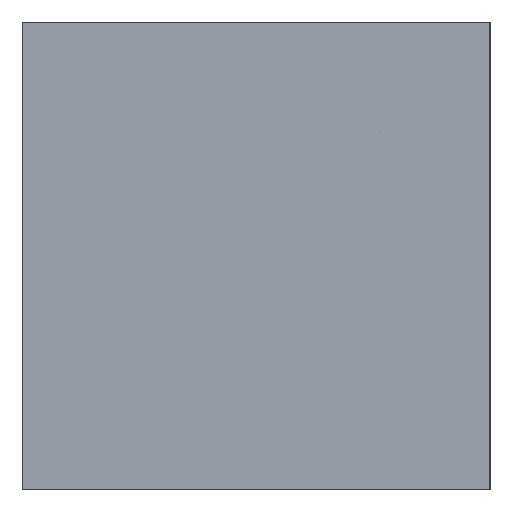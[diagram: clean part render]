
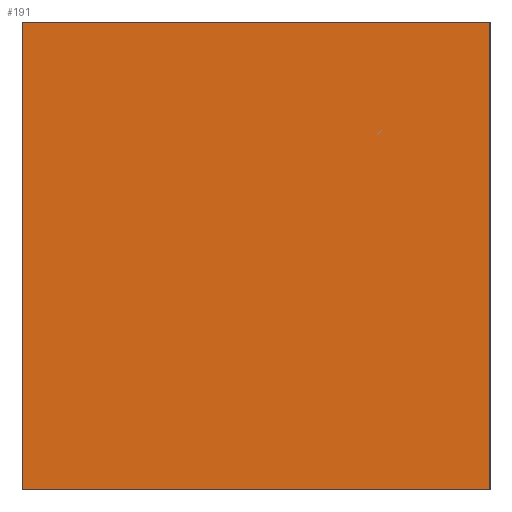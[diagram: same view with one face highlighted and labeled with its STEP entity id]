
A CAD part, left-side view. The second image highlights one B-rep face of the part: STEP entity #191.
In plain terms, the highlighted planar face has unit normal (-1, 0, 0).
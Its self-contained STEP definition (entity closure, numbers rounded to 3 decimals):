
#25=LINE('',#334,#37);
#26=LINE('',#337,#38);
#27=LINE('',#339,#39);
#28=LINE('',#340,#40);
#37=VECTOR('',#280,10.);
#38=VECTOR('',#283,10.);
#39=VECTOR('',#284,10.);
#40=VECTOR('',#285,10.);
#65=FACE_OUTER_BOUND('',#83,.T.);
#83=EDGE_LOOP('',(#155,#156,#157,#158));
#111=VERTEX_POINT('',#330);
#112=VERTEX_POINT('',#332);
#113=VERTEX_POINT('',#336);
#114=VERTEX_POINT('',#338);
#129=EDGE_CURVE('',#111,#112,#25,.T.);
#130=EDGE_CURVE('',#111,#113,#26,.T.);
#131=EDGE_CURVE('',#114,#112,#27,.T.);
#132=EDGE_CURVE('',#113,#114,#28,.T.);
#155=ORIENTED_EDGE('',*,*,#130,.F.);
#156=ORIENTED_EDGE('',*,*,#129,.T.);
#157=ORIENTED_EDGE('',*,*,#131,.F.);
#158=ORIENTED_EDGE('',*,*,#132,.F.);
#179=PLANE('',#233);
#191=ADVANCED_FACE('',(#65),#179,.T.);
#233=AXIS2_PLACEMENT_3D('',#335,#281,#282);
#280=DIRECTION('',(0.,0.,1.));
#281=DIRECTION('center_axis',(-1.,0.,0.));
#282=DIRECTION('ref_axis',(0.,-1.,0.));
#283=DIRECTION('',(0.,1.,0.));
#284=DIRECTION('',(0.,-1.,0.));
#285=DIRECTION('',(0.,0.,1.));
#330=CARTESIAN_POINT('',(-25.,-12.5,0.));
#332=CARTESIAN_POINT('',(-25.,-12.5,25.));
#334=CARTESIAN_POINT('',(-25.,-12.5,0.));
#335=CARTESIAN_POINT('Origin',(-25.,12.5,0.));
#336=CARTESIAN_POINT('',(-25.,12.5,0.));
#337=CARTESIAN_POINT('',(-25.,-12.5,0.));
#338=CARTESIAN_POINT('',(-25.,12.5,25.));
#339=CARTESIAN_POINT('',(-25.,-12.5,25.));
#340=CARTESIAN_POINT('',(-25.,12.5,0.));
